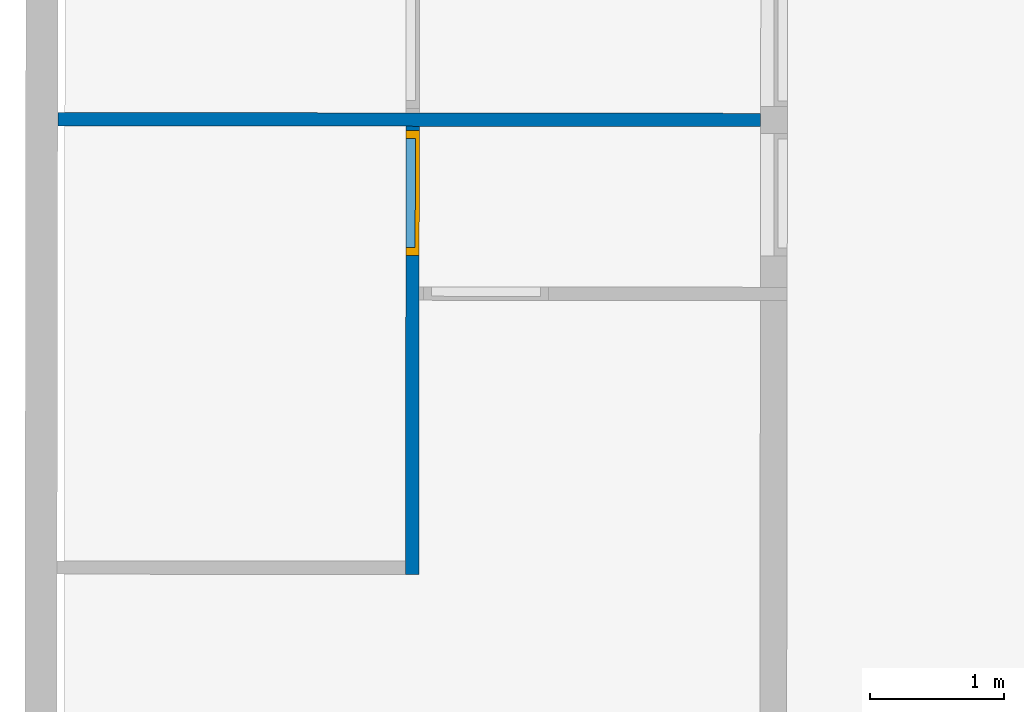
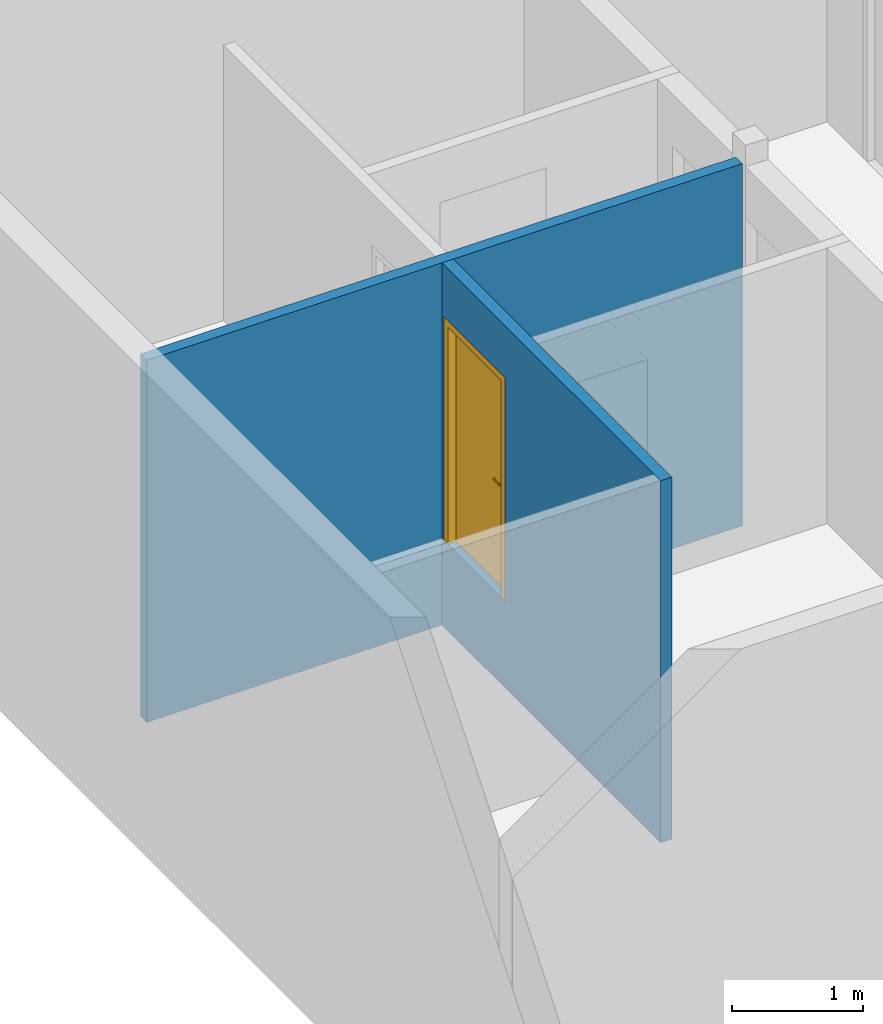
# One storey, part 5 of 24: 2 walls, 1 door, 1 opening.
"""IFC2X3 building model written with IfcOpenShell, lengths in metres."""

from ifc_helpers import new_model, entity, si_unit, converted_unit, derived_unit, direction, frame, frame_2d, origin, place, context, subcontext, project, spatial, polyline, rectangle, outline, extrude, faceted_brep, source, transform, mapped, material, material_list, layer, layer_set, layer_usage, type_object, type_shapes, element, fill, save


model = new_model("IFC2X3")

# Units and contexts
model_context = context("Model", 3, precision=1e-05, world=origin(), true_north=direction((6.123233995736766e-17, 1.0)))
body_context = subcontext(model_context, "Body", "Model", "MODEL_VIEW")
ifc_project = project(units=[si_unit("LENGTHUNIT", "METRE"), si_unit("AREAUNIT", "SQUARE_METRE"), converted_unit("PLANEANGLEUNIT", "DEGREE", entity("IfcPlaneAngleMeasure", 0.017453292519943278), si_unit("PLANEANGLEUNIT", "RADIAN"), dimensions=[0, 0, 0, 0, 0, 0, 0]), derived_unit("THERMALTRANSMITTANCEUNIT", [(si_unit("MASSUNIT", "GRAM", prefix="KILO"), 1), (si_unit("THERMODYNAMICTEMPERATUREUNIT", "KELVIN"), -1), (si_unit("TIMEUNIT", "SECOND"), -3)])], contexts=[model_context])

# Site, building, storey
site_placement = place(None, frame((1253.6752467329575, 2072.143113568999, 91.49999999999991), z_axis=(0.0, 0.0, 1.0), x_axis=(0.7237211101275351, 0.6900925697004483, 0.0)))
site = spatial("IfcSite", under=ifc_project, at=site_placement, Name="Surface", CompositionType="ELEMENT")
building_placement = place(site_placement, origin())
building = spatial("IfcBuilding", under=site, at=building_placement, CompositionType="ELEMENT")
storey_placement = place(building_placement, frame((0.0, 0.0, -7.049999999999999)))
storey = spatial("IfcBuildingStorey", under=building, at=storey_placement, Name="R-1", CompositionType="ELEMENT", Elevation=-7.049999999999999)

# Wall
ifc_material_1 = material(Name="OMD_Béton blanc")
ifc_layer = layer(ifc_material_1, 0.1)
ifc_layer_set = layer_set([ifc_layer], Name="Mur de base:MUR 10")
ifc_layer_usage_1 = layer_usage(ifc_layer_set, "AXIS2", "NEGATIVE", 0.05)
wall_type = type_object("IfcWallType", Name="Mur de base:MUR 10", PredefinedType="STANDARD", material=ifc_layer_set)
wall_1_placement = place(storey_placement, frame((167.6826708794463, 21.35701762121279, -0.08000000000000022), z_axis=(0.0, 0.0, 1.0), x_axis=(-0.7228702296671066, 0.6909838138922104, 0.0)))
element("IfcWallStandardCase", 1, at=wall_1_placement, inside=storey, type_object=wall_type, material=ifc_layer_usage_1, Name="Mur de base:MUR 10", ObjectType="Mur de base:MUR 10", context=body_context, shape_type="SweptSolid", body=[
    extrude(outline(polyline([(-0.04937691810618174, -2.6388668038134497), (0.05062308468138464, -2.6388668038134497), (0.05000874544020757, -0.03703256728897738), (0.04998513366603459, 0.06296742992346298), (0.04938303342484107, 2.6129673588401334), (-0.050616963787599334, 2.612943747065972), (-0.05001486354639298, 0.06294381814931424), (-0.04999125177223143, -0.037056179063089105), (-0.04937691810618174, -2.6388668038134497)])), frame((2.612955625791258, 0.0, 0.0), z_axis=(0.0, 0.0, 1.0), x_axis=(0.00023611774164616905, 0.9999999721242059, 0.0)), (0.0, 0.0, 1.0), 3.3799999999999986),
])

# Wall, opening, door
ifc_layer_usage_2 = layer_usage(ifc_layer_set, "AXIS2", "NEGATIVE", 0.05)
wall_2_placement = place(storey_placement, frame((163.45386331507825, 20.695816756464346, -0.08000000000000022), z_axis=(0.0, 0.0, 1.0), x_axis=(0.6909838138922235, 0.7228702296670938, 0.0)))
wall_2 = element("IfcWallStandardCase", 2, at=wall_2_placement, inside=storey, type_object=wall_type, material=ifc_layer_usage_2, Name="Mur de base:MUR 10", ObjectType="Mur de base:MUR 10", context=body_context, shape_type="SweptSolid", body=[
    extrude(rectangle(XDim=3.350000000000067, YDim=0.10000000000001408, at=frame_2d((1.6750000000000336, -3.316791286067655e-15), x_axis=(-1.0, 0.0))), origin(), (0.0, 0.0, 1.0), 3.379999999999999),
])
opening_placement = place(wall_2_placement, frame((3.317500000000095, 0.049999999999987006, 0.8099999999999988)))
opening = element("IfcOpeningElement", 3, at=opening_placement, cuts=wall_2, Name="OMD_Porte 1V tunnel:80x204:1", ObjectType="Opening", context=body_context, shape_type="SweptSolid", body=[
    extrude(rectangle(XDim=2.0850000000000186, YDim=0.9349999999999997, at=frame_2d((1.0425000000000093, 0.46749999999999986), x_axis=(1.0, 0.0))), frame((0.0, 0.0, 0.0), z_axis=(0.0, -1.0, 0.0), x_axis=(0.0, 0.0, 1.0)), (0.0, 0.0, 1.0), 0.1),
])
ifc_material_2 = material(Name="Porte - Poignée")
ifc_material_3 = material(Name="OMD_Peinture mur")
ifc_material_4 = material(Name="OMD_Bois")
ifc_material_list = material_list([ifc_material_2, ifc_material_3, ifc_material_4])
door_style = type_object("IfcDoorStyle", Name="OMD_Porte 1V tunnel:80x204", ConstructionType="NOTDEFINED", OperationType="NOTDEFINED", ParameterTakesPrecedence=False, Sizeable=False, material=ifc_material_list)
shared_shape = source(origin(), body_context, "Body", "Brep", [
    faceted_brep([(0.21297470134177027, 0.03500000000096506, 1.0077804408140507), (0.20900000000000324, 0.03500000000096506, 1.0069999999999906), (0.208999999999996, 0.03500000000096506, 0.9929999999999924), (0.21297470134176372, 0.03500000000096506, 0.9922195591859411), (0.21702529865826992, 0.03500000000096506, 0.9922195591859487), (0.22100000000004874, 0.03500000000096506, 0.9930000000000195), (0.22100000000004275, 0.03500000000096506, 1.0069999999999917), (0.2170252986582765, 0.03500000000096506, 1.007780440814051), (0.22100000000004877, 0.05748520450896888, 0.9930000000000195), (0.22100000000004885, 0.057485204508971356, 1.0069999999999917), (0.21702529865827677, 0.059131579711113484, 1.007780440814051), (0.23083890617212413, 0.07294518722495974, 1.007780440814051), (0.2291610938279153, 0.07699578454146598, 1.0077804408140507), (0.21297470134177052, 0.060809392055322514, 1.0077804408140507), (0.3206847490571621, 0.0664673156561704, 1.0077804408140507), (0.32354895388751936, 0.06933152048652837, 1.0077804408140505), (0.31588468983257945, 0.07699578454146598, 1.0077804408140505), (0.31420687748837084, 0.07294518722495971, 1.0077804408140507), (0.20900000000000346, 0.06245576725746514, 1.0069999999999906), (0.20900000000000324, 0.06245576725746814, 0.9929999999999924), (0.21297470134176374, 0.06080939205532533, 0.9922195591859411), (0.22916109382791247, 0.07699578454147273, 0.9922195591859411), (0.23083890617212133, 0.07294518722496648, 0.9922195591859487), (0.21702529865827, 0.05913157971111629, 0.9922195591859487), (0.32354895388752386, 0.06933152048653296, 0.9922195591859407), (0.3206847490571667, 0.06646731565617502, 0.9922195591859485), (0.3142068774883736, 0.07294518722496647, 0.9922195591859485), (0.3158846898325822, 0.07699578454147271, 0.9922195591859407), (0.23248528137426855, 0.0689704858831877, 0.9930000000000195), (0.23248528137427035, 0.06897048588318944, 1.0069999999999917), (0.22751471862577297, 0.0809704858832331, 1.0069999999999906), (0.22751471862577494, 0.08097048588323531, 0.9929999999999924), (0.2725228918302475, 0.06897048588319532, 0.9930000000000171), (0.3125605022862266, 0.06897048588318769, 0.9930000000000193), (0.31256050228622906, 0.06897048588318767, 1.0069999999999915), (0.2725228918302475, 0.0689704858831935, 1.0069999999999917), (0.2725228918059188, 0.07512492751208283, 1.0078781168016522), (0.31753106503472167, 0.08097048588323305, 1.0069999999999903), (0.2776005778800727, 0.08097048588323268, 1.0069999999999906), (0.31753106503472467, 0.08097048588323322, 0.9929999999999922), (0.2674452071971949, 0.08097048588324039, 0.9929999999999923), (0.2725228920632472, 0.07512492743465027, 0.9921218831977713), (0.317874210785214, 0.06365677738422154, 0.9930000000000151), (0.32635949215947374, 0.07214205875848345, 0.99299999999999), (0.3263594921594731, 0.07214205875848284, 1.0069999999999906), (0.317874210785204, 0.06365677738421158, 1.0069999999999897)], [[[0, 1, 2, 3, 4, 5, 6, 7]], [[6, 5, 8, 9]], [[9, 10, 7, 6]], [[10, 11, 12, 13, 0, 7]], [[14, 15, 16, 17]], [[13, 18, 1, 0]], [[2, 1, 18, 19]], [[19, 20, 3, 2]], [[20, 21, 22, 23, 4, 3]], [[24, 25, 26, 27]], [[23, 8, 5, 4]], [[9, 8, 28, 29]], [[29, 11, 10, 9]], [[12, 30, 18, 13]], [[19, 18, 30, 31]], [[31, 21, 20, 19]], [[22, 28, 8, 23]], [[29, 28, 32, 33, 34, 35]], [[11, 35, 36]], [[16, 37, 38]], [[30, 12, 38]], [[38, 12, 36]], [[36, 35, 17]], [[17, 16, 36]], [[35, 11, 29]], [[34, 17, 35]], [[11, 36, 12]], [[38, 36, 16]], [[31, 30, 38, 37, 39, 40]], [[40, 41, 21]], [[41, 40, 27]], [[21, 31, 40]], [[39, 27, 40]], [[41, 32, 22]], [[22, 21, 41]], [[26, 32, 41]], [[28, 22, 32]], [[32, 26, 33]], [[26, 41, 27]], [[42, 25, 24, 43, 44, 15, 14, 45]], [[34, 33, 42, 45]], [[45, 14, 17, 34]], [[15, 44, 37, 16]], [[39, 37, 44, 43]], [[43, 24, 27, 39]], [[25, 42, 33, 26]]]),
    faceted_brep([(0.21297470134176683, -0.004999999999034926, 1.0077804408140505), (0.2170252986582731, -0.004999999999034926, 1.007780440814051), (0.2210000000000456, -0.004999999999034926, 1.006999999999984), (0.22100000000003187, -0.004999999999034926, 0.9930000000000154), (0.21702529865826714, -0.004999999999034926, 0.9922195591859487), (0.21297470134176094, -0.004999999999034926, 0.992219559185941), (0.20900000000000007, -0.004999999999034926, 0.992999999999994), (0.20900000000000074, -0.004999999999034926, 1.0069999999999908), (0.20900000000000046, -0.03265095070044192, 1.0069999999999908), (0.21297470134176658, -0.03100457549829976, 1.0077804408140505), (0.22902358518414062, -0.04705345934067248, 1.0077804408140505), (0.2307013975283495, -0.04300286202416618, 1.007780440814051), (0.21702529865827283, -0.02932676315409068, 1.007780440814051), (0.3235218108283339, -0.039389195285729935, 1.0077804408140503), (0.3206576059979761, -0.03652499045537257, 1.0077804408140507), (0.3141797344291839, -0.04300286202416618, 1.0077804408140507), (0.31585754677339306, -0.04705345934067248, 1.0077804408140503), (0.22100000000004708, -0.027680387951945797, 1.0069999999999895), (0.22100000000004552, -0.02768038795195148, 0.9930000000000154), (0.21702529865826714, -0.029326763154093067, 0.9922195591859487), (0.23070139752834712, -0.04300286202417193, 0.9922195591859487), (0.2290235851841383, -0.0470534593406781, 0.992219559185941), (0.21297470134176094, -0.031004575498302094, 0.992219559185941), (0.32065760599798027, -0.036524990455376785, 0.9922195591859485), (0.3235218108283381, -0.03938919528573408, 0.9922195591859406), (0.31585754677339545, -0.047053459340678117, 0.9922195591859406), (0.3141797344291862, -0.04300286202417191, 0.9922195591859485), (0.20899999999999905, -0.032650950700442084, 0.9929999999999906), (0.22737720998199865, -0.051028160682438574, 1.0069999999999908), (0.23234777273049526, -0.03902816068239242, 1.0069999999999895), (0.23234777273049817, -0.03902816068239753, 0.9930000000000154), (0.22737720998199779, -0.051028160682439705, 0.9929999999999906), (0.2673076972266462, -0.05102816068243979, 1.0069999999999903), (0.272440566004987, -0.0451828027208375, 1.0078781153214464), (0.3175039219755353, -0.05102816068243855, 1.0069999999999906), (0.27244056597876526, -0.039028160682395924, 1.0069999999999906), (0.3125333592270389, -0.03902816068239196, 1.0069999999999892), (0.31253335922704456, -0.03902816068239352, 0.9930000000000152), (0.27244056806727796, -0.03902816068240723, 0.9930000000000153), (0.27244056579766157, -0.04518280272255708, 0.9921218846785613), (0.3175039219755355, -0.051028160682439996, 0.9929999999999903), (0.27757344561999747, -0.051028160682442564, 0.9929999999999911), (0.3178470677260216, -0.03371445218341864, 1.0069999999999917), (0.3263323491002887, -0.04219973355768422, 1.0069999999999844), (0.3263323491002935, -0.04219973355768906, 0.9929999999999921), (0.31784706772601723, -0.033714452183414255, 0.9930000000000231)], [[[0, 1, 2, 3, 4, 5, 6, 7]], [[8, 9, 0, 7]], [[9, 10, 11, 12, 1, 0]], [[13, 14, 15, 16]], [[12, 17, 2, 1]], [[3, 2, 17, 18]], [[18, 19, 4, 3]], [[19, 20, 21, 22, 5, 4]], [[23, 24, 25, 26]], [[22, 27, 6, 5]], [[7, 6, 27, 8]], [[28, 10, 9, 8]], [[11, 29, 17, 12]], [[18, 17, 29, 30]], [[30, 20, 19, 18]], [[21, 31, 27, 22]], [[8, 27, 31, 28]], [[32, 33, 10]], [[33, 32, 16]], [[10, 28, 32]], [[34, 16, 32]], [[33, 35, 11]], [[11, 10, 33]], [[15, 35, 33]], [[29, 11, 35]], [[35, 15, 36]], [[15, 33, 16]], [[30, 29, 35, 36, 37, 38]], [[20, 38, 39]], [[25, 40, 41]], [[31, 21, 41]], [[41, 21, 39]], [[39, 38, 26]], [[26, 25, 39]], [[38, 20, 30]], [[37, 26, 38]], [[20, 39, 21]], [[41, 39, 25]], [[28, 31, 41, 40, 34, 32]], [[42, 14, 13, 43, 44, 24, 23, 45]], [[43, 13, 16, 34]], [[14, 42, 36, 15]], [[37, 36, 42, 45]], [[45, 23, 26, 37]], [[24, 44, 40, 25]], [[34, 40, 44, 43]]]),
    faceted_brep([(0.22535276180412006, 0.030000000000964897, 0.8660039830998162), (0.2350000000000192, 0.030000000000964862, 0.8700000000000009), (0.2350000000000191, 0.030000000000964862, 1.0800000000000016), (0.2253527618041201, 0.030000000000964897, 1.0839960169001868), (0.21500000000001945, 0.030000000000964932, 1.0853589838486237), (0.20464723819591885, 0.03000000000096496, 1.0839960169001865), (0.19500000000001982, 0.030000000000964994, 1.0800000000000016), (0.19500000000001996, 0.030000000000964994, 0.8700000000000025), (0.20464723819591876, 0.03000000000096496, 0.866003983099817), (0.21500000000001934, 0.030000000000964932, 0.8646410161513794), (0.22535276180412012, 0.0350000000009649, 1.0839960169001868), (0.2350000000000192, 0.03500000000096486, 1.0800000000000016), (0.23500000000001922, 0.03500000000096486, 0.8700000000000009), (0.22535276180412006, 0.0350000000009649, 0.8660039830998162), (0.21500000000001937, 0.03500000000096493, 0.8646410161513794), (0.20464723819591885, 0.03500000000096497, 0.866003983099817), (0.19500000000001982, 0.035000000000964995, 0.8700000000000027), (0.19500000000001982, 0.035000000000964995, 1.0800000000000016), (0.20464723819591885, 0.03500000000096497, 1.0839960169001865), (0.21500000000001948, 0.03500000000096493, 1.0853589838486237)], [[[0, 1, 2, 3, 4, 5, 6, 7, 8, 9]], [[10, 11, 12, 13, 14, 15, 16, 17, 18, 19]], [[11, 10, 3, 2]], [[3, 10, 19, 4]], [[19, 18, 5, 4]], [[18, 17, 6, 5]], [[7, 6, 17, 16]], [[16, 15, 8, 7]], [[8, 15, 14, 9]], [[14, 13, 0, 9]], [[13, 12, 1, 0]], [[2, 1, 12, 11]]]),
    faceted_brep([(0.22535276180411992, -0.004999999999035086, 0.8660039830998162), (0.2350000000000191, -0.004999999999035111, 0.8700000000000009), (0.23500000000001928, -0.004999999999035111, 1.0800000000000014), (0.22535276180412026, -0.004999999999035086, 1.0839960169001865), (0.2150000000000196, -0.004999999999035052, 1.0853589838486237), (0.20464723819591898, -0.0049999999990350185, 1.0839960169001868), (0.19500000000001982, -0.004999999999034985, 1.0800000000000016), (0.19500000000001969, -0.004999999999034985, 0.8700000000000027), (0.20464723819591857, -0.0049999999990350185, 0.8660039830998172), (0.21500000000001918, -0.004999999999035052, 0.8646410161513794), (0.22535276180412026, 0.0, 1.0839960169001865), (0.2350000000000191, 0.0, 1.0800000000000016), (0.2350000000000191, 0.0, 0.8700000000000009), (0.22535276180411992, 0.0, 0.8660039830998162), (0.21500000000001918, 0.0, 0.8646410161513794), (0.20464723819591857, 0.0, 0.8660039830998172), (0.19500000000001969, 0.0, 0.8700000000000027), (0.19500000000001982, 0.0, 1.0800000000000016), (0.20464723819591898, 0.0, 1.0839960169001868), (0.2150000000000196, 0.0, 1.0853589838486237)], [[[0, 1, 2, 3, 4, 5, 6, 7, 8, 9]], [[10, 11, 12, 13, 14, 15, 16, 17, 18, 19]], [[16, 15, 8, 7]], [[8, 15, 14, 9]], [[14, 13, 0, 9]], [[13, 12, 1, 0]], [[2, 1, 12, 11]], [[11, 10, 3, 2]], [[3, 10, 19, 4]], [[19, 18, 5, 4]], [[18, 17, 6, 5]], [[7, 6, 17, 16]]]),
    faceted_brep([(0.14500000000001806, 0.030000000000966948, 0.0), (0.9900000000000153, 0.030000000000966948, 0.0), (0.9900000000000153, 0.0, 0.0), (0.14500000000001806, 0.0, 0.0), (0.14500000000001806, 0.030000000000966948, 2.04), (0.14500000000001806, 0.0, 2.04), (0.9900000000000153, 0.0, 2.04), (0.9900000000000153, 0.030000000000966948, 2.04)], [[[0, 1, 2, 3]], [[4, 0, 3, 5]], [[5, 3, 2, 6]], [[6, 2, 1, 7]], [[7, 1, 0, 4]], [[4, 5, 6, 7]]]),
    faceted_brep([(0.10000000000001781, 0.0, 0.0), (0.10000000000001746, 0.10000000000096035, 0.0), (0.16000000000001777, 0.10000000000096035, 0.0), (0.16000000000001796, 0.03000000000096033, 0.0), (0.145000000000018, 0.03000000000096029, 0.0), (0.14500000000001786, 0.0, 0.0), (0.145000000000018, 0.0, 2.04), (0.9900000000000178, 0.0, 2.0400000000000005), (0.9900000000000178, 0.0, 0.0), (1.0350000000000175, 0.0, 0.0), (1.0350000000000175, 0.0, 2.085), (0.10000000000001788, 0.0, 2.085), (0.14500000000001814, 0.030000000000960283, 2.04), (0.16000000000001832, 0.03000000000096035, 2.0249999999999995), (0.9750000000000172, 0.03000000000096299, 2.0249999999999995), (0.9750000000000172, 0.03000000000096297, 0.0), (0.9900000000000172, 0.03000000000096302, 0.0), (0.9900000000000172, 0.03000000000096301, 2.0399999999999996), (0.16000000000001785, 0.10000000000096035, 2.0249999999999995), (0.1000000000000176, 0.10000000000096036, 2.085), (1.0350000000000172, 0.10000000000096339, 2.085), (1.0350000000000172, 0.10000000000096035, 0.0), (0.9750000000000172, 0.10000000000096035, 0.0), (0.9750000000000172, 0.10000000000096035, 2.025)], [[[0, 1, 2, 3, 4, 5]], [[5, 6, 7, 8, 9, 10, 11, 0]], [[4, 12, 6, 5]], [[3, 13, 14, 15, 16, 17, 12, 4]], [[2, 18, 13, 3]], [[1, 19, 20, 21, 22, 23, 18, 2]], [[0, 11, 19, 1]], [[10, 9, 21, 20]], [[9, 8, 16, 15, 22, 21]], [[17, 16, 8, 7]], [[23, 22, 15, 14]], [[12, 17, 7, 6]], [[18, 23, 14, 13]], [[11, 10, 20, 19]]]),
])
type_shapes(door_style, [shared_shape])
door_placement = place(opening_placement, frame((-1.0350000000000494, -0.0999999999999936, 0.0)))
door = element("IfcDoor", 4, at=door_placement, inside=storey, type_object=door_style, material=ifc_material_list, Name="OMD_Porte 1V tunnel:80x204", ObjectType="OMD_Porte 1V tunnel:80x204", OverallHeight=2.0850000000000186, OverallWidth=0.9350000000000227, context=body_context, shape_type="MappedRepresentation", body=[
    mapped(shared_shape, transform((0.0, 0.0, 0.0), scale=1.0)),
])
fill(opening, door)

save(model, "model.ifc")
